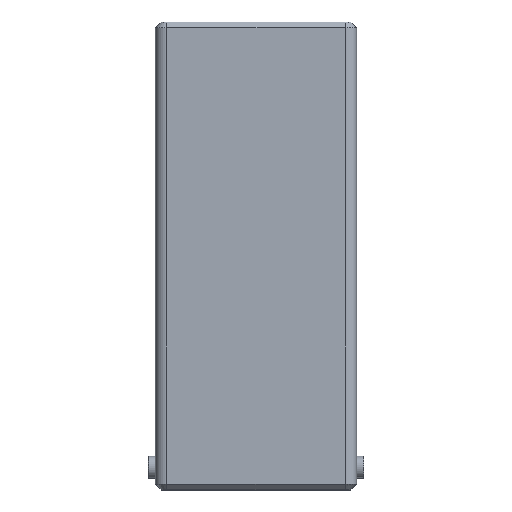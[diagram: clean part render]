
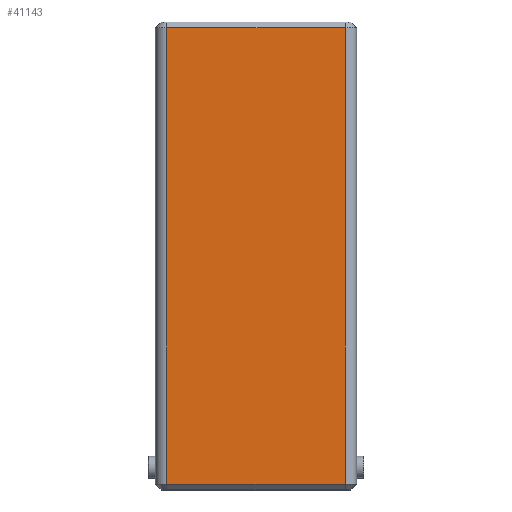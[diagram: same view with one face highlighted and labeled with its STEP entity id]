
A CAD part, top view. The second image highlights one B-rep face of the part: STEP entity #41143.
In plain terms, the highlighted planar face has unit normal (0, 0, 1).
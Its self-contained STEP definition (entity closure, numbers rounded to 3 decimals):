
#1842=PLANE('',#44878);
#3950=FACE_OUTER_BOUND('',#6233,.T.);
#6233=EDGE_LOOP('',(#35718,#35719,#35720,#35721));
#10039=LINE('',#70973,#13910);
#10053=LINE('',#71008,#13924);
#10077=LINE('',#71119,#13948);
#10079=LINE('',#71122,#13950);
#13910=VECTOR('',#55774,10.);
#13924=VECTOR('',#55808,10.);
#13948=VECTOR('',#55906,10.);
#13950=VECTOR('',#55910,10.);
#19147=VERTEX_POINT('',#70966);
#19149=VERTEX_POINT('',#70972);
#19158=VERTEX_POINT('',#71000);
#19160=VERTEX_POINT('',#71006);
#24683=EDGE_CURVE('',#19147,#19149,#10039,.T.);
#24701=EDGE_CURVE('',#19160,#19158,#10053,.T.);
#24757=EDGE_CURVE('',#19149,#19160,#10077,.T.);
#24759=EDGE_CURVE('',#19158,#19147,#10079,.T.);
#35718=ORIENTED_EDGE('',*,*,#24683,.F.);
#35719=ORIENTED_EDGE('',*,*,#24759,.F.);
#35720=ORIENTED_EDGE('',*,*,#24701,.F.);
#35721=ORIENTED_EDGE('',*,*,#24757,.F.);
#41143=ADVANCED_FACE('',(#3950),#1842,.T.);
#44878=AXIS2_PLACEMENT_3D('',#71121,#55908,#55909);
#55774=DIRECTION('',(-1.,0.,0.));
#55808=DIRECTION('',(1.,0.,0.));
#55906=DIRECTION('',(0.,1.,0.));
#55908=DIRECTION('center_axis',(0.,0.,
1.));
#55909=DIRECTION('ref_axis',(0.,-1.,0.));
#55910=DIRECTION('',(0.,-1.,0.));
#70966=CARTESIAN_POINT('',(15.75,-40.25,10.1));
#70972=CARTESIAN_POINT('',(-15.75,-40.25,10.1));
#70973=CARTESIAN_POINT('',(-8.875,-40.25,10.1));
#71000=CARTESIAN_POINT('',(15.75,40.25,10.1));
#71006=CARTESIAN_POINT('',(-15.75,40.25,10.1));
#71008=CARTESIAN_POINT('',(8.875,40.25,10.1));
#71119=CARTESIAN_POINT('',(-15.75,20.625,10.1));
#71121=CARTESIAN_POINT('Origin',(0.,0.,
10.1));
#71122=CARTESIAN_POINT('',(15.75,-20.625,10.1));
